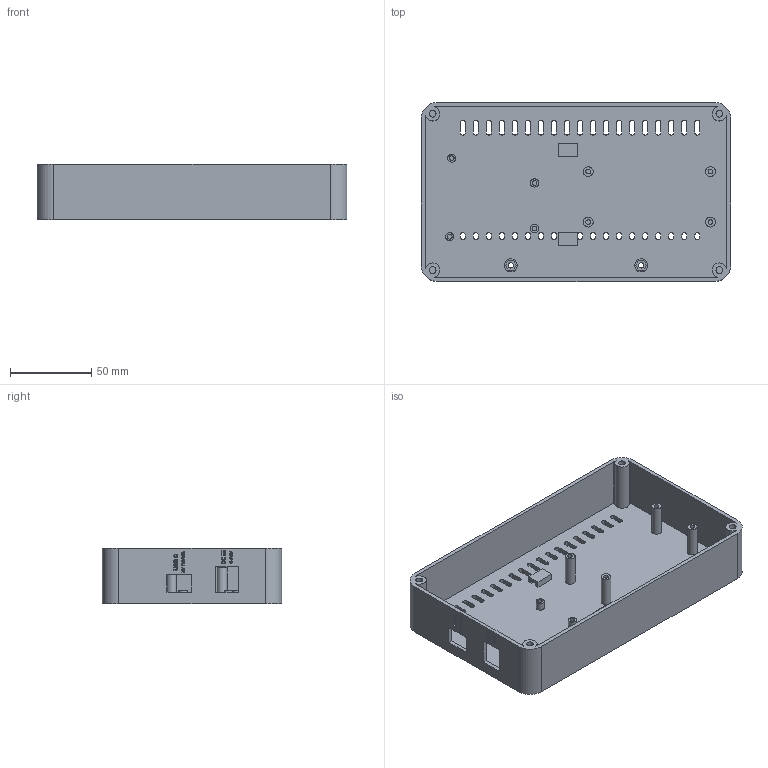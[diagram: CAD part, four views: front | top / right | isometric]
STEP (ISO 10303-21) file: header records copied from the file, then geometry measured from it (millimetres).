
FILE_DESCRIPTION(('Open CASCADE Model'),'2;1');
FILE_NAME('Open CASCADE Shape Model','2026-10-18T19:44:53',('Author'),( 'Open CASCADE'),'Open CASCADE STEP processor 7.9','Open CASCADE 7.9' ,'Unknown');
FILE_SCHEMA(('AUTOMOTIVE_DESIGN { 1 0 10303 214 1 1 1 1 }'));
Products named in the file (1): Open CASCADE STEP translator 7.9 1
Bounding box: 190 x 110 x 34 mm (x, y, z)
Volume: 111676.9 mm3; surface area: 84632.5 mm2
Topology: 1 solids, 1 shells, 1742 faces, 4902 edges, 3268 vertices
Faces by surface type: extrusion 858, plane 692, cylinder 192
Full cylindrical faces by diameter (mm): 2.9 x8, 3.3 x2, 4.2 x4, 5 x4, 6 x4, 8 x2
Entity records: 135312 total; most frequent: CARTESIAN_POINT 47104, DIRECTION 12050, ORIENTED_EDGE 9804, PCURVE 9804, DEFINITIONAL_REPRESENTATION 9804, VECTOR 9165, LINE 8307, B_SPLINE_CURVE_WITH_KNOTS 6489
